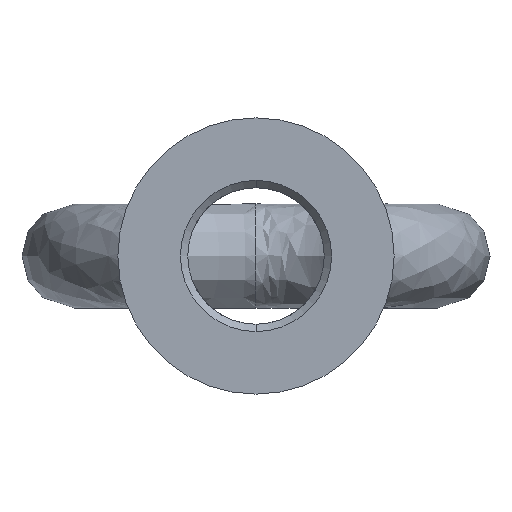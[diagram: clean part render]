
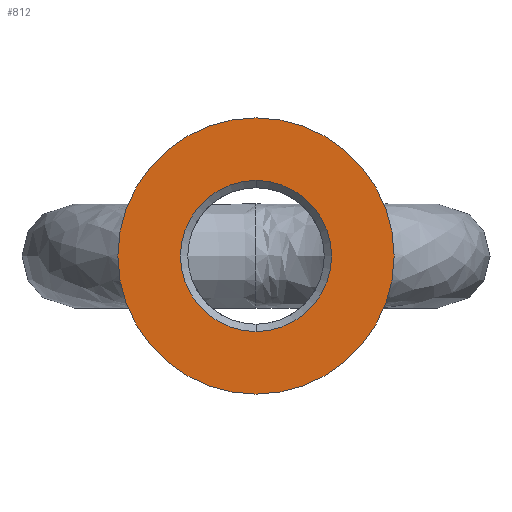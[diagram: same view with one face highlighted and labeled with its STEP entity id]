
A CAD part, front view. The second image highlights one B-rep face of the part: STEP entity #812.
In plain terms, the highlighted planar face has unit normal (0, -1, 0).
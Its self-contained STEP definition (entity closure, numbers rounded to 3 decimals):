
#12 = EDGE_CURVE ( 'NONE', #2441, #1362, #192, .T. ) ;
#26 = DIRECTION ( 'NONE',  ( 0., 1., 0. ) ) ;
#134 = DIRECTION ( 'NONE',  ( 0., 0., 1. ) ) ;
#147 = CIRCLE ( 'NONE', #2845, 23.25 ) ;
#192 = CIRCLE ( 'NONE', #375, 23.25 ) ;
#217 = ORIENTED_EDGE ( 'NONE', *, *, #941, .F. ) ;
#293 = CARTESIAN_POINT ( 'NONE',  ( 0., 0., 23.25 ) ) ;
#375 = AXIS2_PLACEMENT_3D ( 'NONE', #1417, #26, #2195 ) ;
#519 = VERTEX_POINT ( 'NONE', #2704 ) ;
#594 = CARTESIAN_POINT ( 'NONE',  ( 0., 0., -42.5 ) ) ;
#612 = CARTESIAN_POINT ( 'NONE',  ( 0., 0., 0. ) ) ;
#757 = AXIS2_PLACEMENT_3D ( 'NONE', #612, #3324, #2480 ) ;
#812 = ADVANCED_FACE ( 'NONE', ( #3019, #2775 ), #3000, .T. ) ;
#850 = EDGE_CURVE ( 'NONE', #1141, #519, #1264, .T. ) ;
#941 = EDGE_CURVE ( 'NONE', #519, #1141, #2955, .T. ) ;
#1009 = CARTESIAN_POINT ( 'NONE',  ( 0., 0., 0. ) ) ;
#1141 = VERTEX_POINT ( 'NONE', #594 ) ;
#1212 = AXIS2_PLACEMENT_3D ( 'NONE', #2248, #1704, #2738 ) ;
#1264 = CIRCLE ( 'NONE', #757, 42.5 ) ;
#1362 = VERTEX_POINT ( 'NONE', #293 ) ;
#1417 = CARTESIAN_POINT ( 'NONE',  ( 0., 0., 0. ) ) ;
#1441 = AXIS2_PLACEMENT_3D ( 'NONE', #3075, #2299, #134 ) ;
#1557 = EDGE_LOOP ( 'NONE', ( #2423, #2632 ) ) ;
#1672 = EDGE_LOOP ( 'NONE', ( #3053, #217 ) ) ;
#1704 = DIRECTION ( 'NONE',  ( 0., -1., 0. ) ) ;
#2086 = DIRECTION ( 'NONE',  ( 0., 1., 0. ) ) ;
#2195 = DIRECTION ( 'NONE',  ( 0., 0., -1. ) ) ;
#2200 = CARTESIAN_POINT ( 'NONE',  ( 0., 0., -23.25 ) ) ;
#2248 = CARTESIAN_POINT ( 'NONE',  ( 0., 0., 0. ) ) ;
#2299 = DIRECTION ( 'NONE',  ( 0., 1., 0. ) ) ;
#2423 = ORIENTED_EDGE ( 'NONE', *, *, #12, .T. ) ;
#2441 = VERTEX_POINT ( 'NONE', #2200 ) ;
#2470 = EDGE_CURVE ( 'NONE', #1362, #2441, #147, .T. ) ;
#2480 = DIRECTION ( 'NONE',  ( 0., 0., 1. ) ) ;
#2632 = ORIENTED_EDGE ( 'NONE', *, *, #2470, .T. ) ;
#2704 = CARTESIAN_POINT ( 'NONE',  ( 0., 0., 42.5 ) ) ;
#2738 = DIRECTION ( 'NONE',  ( 0., 0., -1. ) ) ;
#2775 = FACE_OUTER_BOUND ( 'NONE', #1672, .T. ) ;
#2845 = AXIS2_PLACEMENT_3D ( 'NONE', #1009, #2086, #3156 ) ;
#2955 = CIRCLE ( 'NONE', #1441, 42.5 ) ;
#3000 = PLANE ( 'NONE',  #1212 ) ;
#3019 = FACE_BOUND ( 'NONE', #1557, .T. ) ;
#3053 = ORIENTED_EDGE ( 'NONE', *, *, #850, .F. ) ;
#3075 = CARTESIAN_POINT ( 'NONE',  ( 0., 0., 0. ) ) ;
#3156 = DIRECTION ( 'NONE',  ( 0., 0., -1. ) ) ;
#3324 = DIRECTION ( 'NONE',  ( 0., 1., 0. ) ) ;
